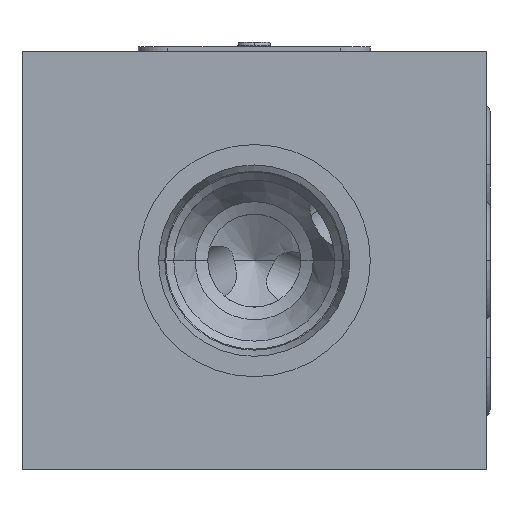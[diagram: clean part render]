
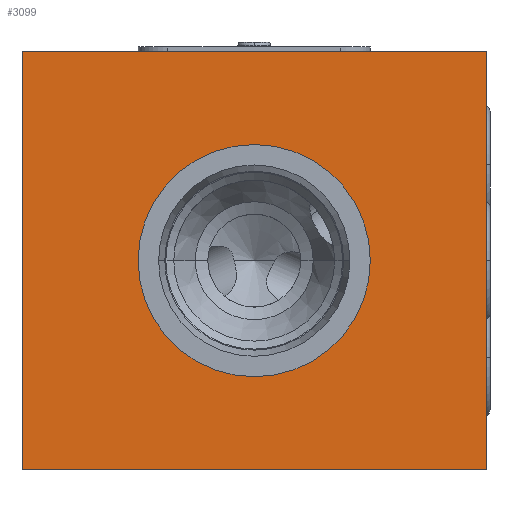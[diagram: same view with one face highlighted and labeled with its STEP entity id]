
A CAD part, left-side view. The second image highlights one B-rep face of the part: STEP entity #3099.
In plain terms, the highlighted planar face has unit normal (-1, 0, 0).
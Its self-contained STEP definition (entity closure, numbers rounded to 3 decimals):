
#55=DIRECTION('',(0.,0.,-1.));
#56=VECTOR('',#55,45.);
#57=CARTESIAN_POINT('',(0.,0.,0.));
#58=LINE('',#57,#56);
#62=DIRECTION('',(0.,1.,0.));
#63=VECTOR('',#62,50.);
#64=CARTESIAN_POINT('',(0.,0.,-45.));
#65=LINE('',#64,#63);
#69=DIRECTION('',(0.,0.,1.));
#70=VECTOR('',#69,45.);
#71=CARTESIAN_POINT('',(0.,50.,-45.));
#72=LINE('',#71,#70);
#76=DIRECTION('',(0.,-1.,0.));
#77=VECTOR('',#76,50.);
#78=CARTESIAN_POINT('',(0.,50.,0.));
#79=LINE('',#78,#77);
#83=CARTESIAN_POINT('',(0.,25.,-22.5));
#84=DIRECTION('',(1.,0.,0.));
#85=DIRECTION('',(0.,-1.,0.));
#86=AXIS2_PLACEMENT_3D('',#83,#84,#85);
#91=CARTESIAN_POINT('',(0.,25.,-22.5));
#92=DIRECTION('',(1.,0.,0.));
#93=DIRECTION('',(0.,1.,0.));
#94=AXIS2_PLACEMENT_3D('',#91,#92,#93);
#2801=CARTESIAN_POINT('',(0.,0.,0.));
#2802=CARTESIAN_POINT('',(0.,0.,-45.));
#2803=VERTEX_POINT('',#2801);
#2804=VERTEX_POINT('',#2802);
#2805=CARTESIAN_POINT('',(0.,50.,-45.));
#2806=VERTEX_POINT('',#2805);
#2807=CARTESIAN_POINT('',(0.,50.,0.));
#2808=VERTEX_POINT('',#2807);
#2921=CARTESIAN_POINT('',(0.,12.5,-22.5));
#2922=VERTEX_POINT('',#2921);
#2923=CARTESIAN_POINT('',(0.,37.5,-22.5));
#2924=VERTEX_POINT('',#2923);
#3078=CARTESIAN_POINT('',(0.,0.,0.));
#3079=DIRECTION('',(1.,0.,0.));
#3080=DIRECTION('',(0.,0.,-1.));
#3081=AXIS2_PLACEMENT_3D('',#3078,#3079,#3080);
#3082=PLANE('',#3081);
#3084=ORIENTED_EDGE('',*,*,#3083,.T.);
#3086=ORIENTED_EDGE('',*,*,#3085,.T.);
#3088=ORIENTED_EDGE('',*,*,#3087,.T.);
#3090=ORIENTED_EDGE('',*,*,#3089,.T.);
#3091=EDGE_LOOP('',(#3084,#3086,#3088,#3090));
#3092=FACE_OUTER_BOUND('',#3091,.F.);
#3094=ORIENTED_EDGE('',*,*,#3093,.F.);
#3096=ORIENTED_EDGE('',*,*,#3095,.F.);
#3097=EDGE_LOOP('',(#3094,#3096));
#3098=FACE_BOUND('',#3097,.F.);
#87=CIRCLE('',#86,12.5);
#95=CIRCLE('',#94,12.5);
#3083=EDGE_CURVE('',#2803,#2804,#58,.T.);
#3085=EDGE_CURVE('',#2804,#2806,#65,.T.);
#3087=EDGE_CURVE('',#2806,#2808,#72,.T.);
#3089=EDGE_CURVE('',#2808,#2803,#79,.T.);
#3093=EDGE_CURVE('',#2922,#2924,#87,.T.);
#3095=EDGE_CURVE('',#2924,#2922,#95,.T.);
#3099=ADVANCED_FACE('',(#3092,#3098),#3082,.F.);
